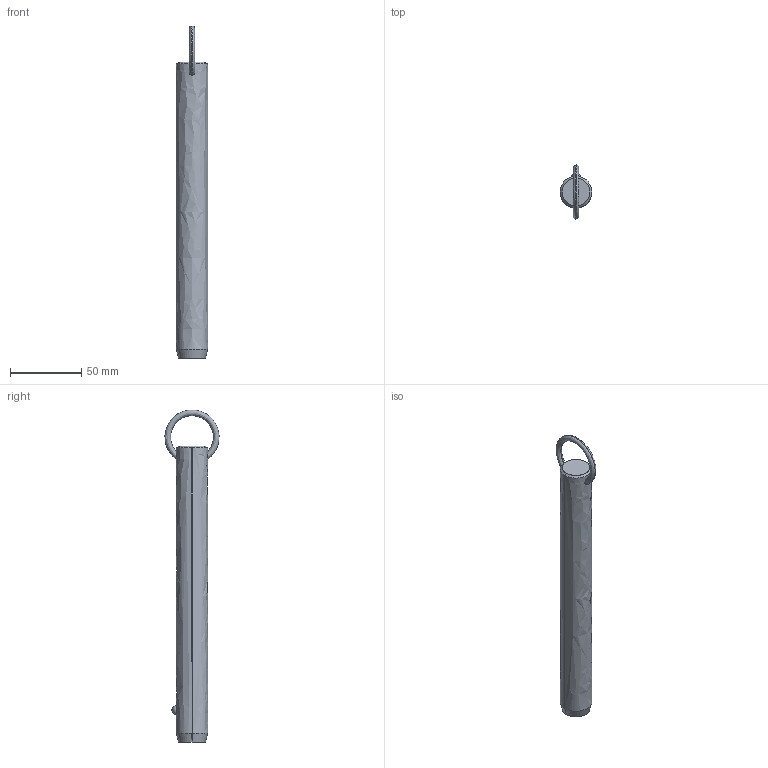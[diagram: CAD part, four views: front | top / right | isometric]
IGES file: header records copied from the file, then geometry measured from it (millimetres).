
Start section: SolidWorks IGES file using analytic representation for surfaces
Global section: file name: C:\Users\liam_\OneDrive\Documents\WORK\Work for WixRoyd\Job Files\J-00019 - Matt Davis CAD Checking\04. CAD Drawings\automotion20190605\P1250.2_v2\P1250.2_v2_20190729_IGES\P1250.087-670.igs; native system: SolidWorks 2017; preprocessor: SolidWorks 2017; author: liam_; date: 190730.172846; units: millimetre
Bounding box: 22.2 x 38.06 x 233.68 mm (x, y, z)
Surface area: 16171.3 mm2 (no closed solid volume)
Topology: 0 solids, 0 shells, 12 faces, 302 edges, 300 vertices
Faces by surface type: revolution 8, bspline 4
